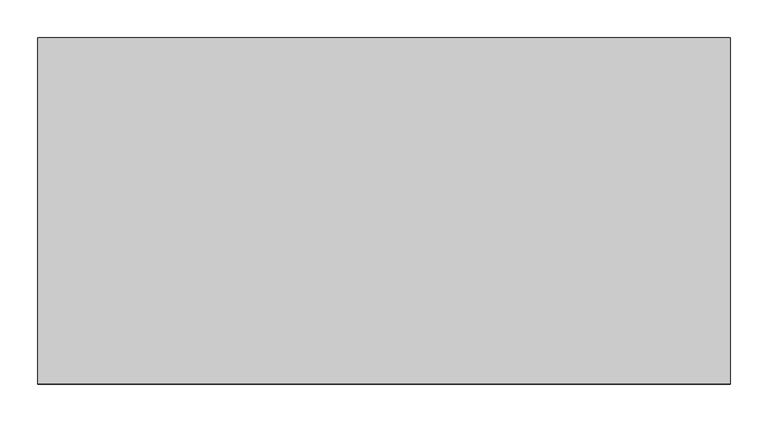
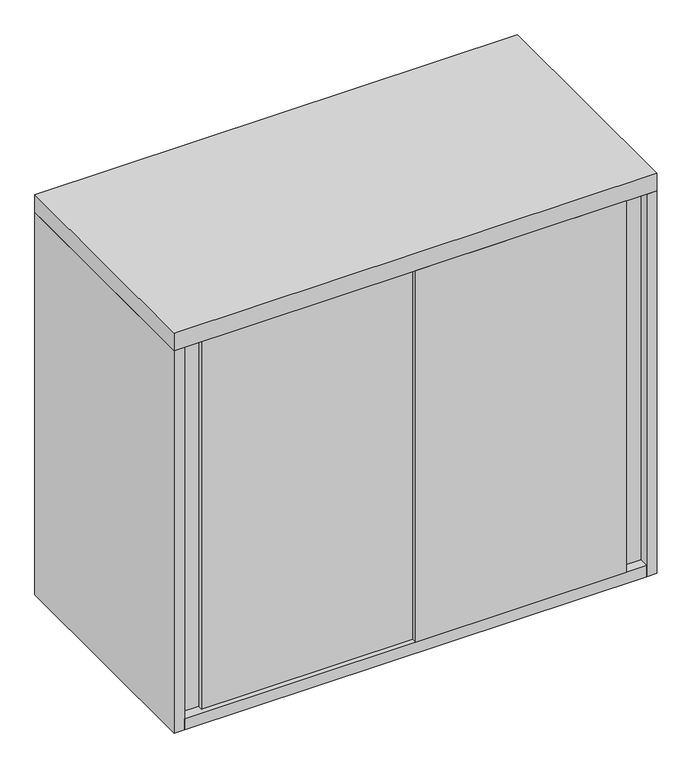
"""IFC4 building model written with IfcOpenShell, lengths in millimetres: furniture geometry, Steelcase - 900 Series - Storage - Overfile Cabinet - Flush Steel : With Sliding Door - 36W x 31 1/2H."""

import ifcopenshell
import ifcopenshell.guid

model = None  # the IFC model being written
_history = None  # IfcOwnerHistory: only IFC2X3 demands one
_inside = {}  # id of a spatial element -> (the spatial element, [elements in it])
_under = {}  # id of a project, library or spatial element -> (it, [spatial elements below it])
_declared = {}  # id of a project -> (the project, [libraries it declares])
_typed = {}  # id of a type object -> (the type object, [elements of that type])
_made_of = {}  # id of a material, layer set ... -> (it, [elements and type objects made of it])


def new_model(schema):
    """Start an empty IFC model of exactly this schema.

    Asked for "IFC4X3", IfcOpenShell would pick the latest addendum, in which some entities
    have other attributes; the version numbers below select the first issue.
    IFC2X3 requires an IfcOwnerHistory on every rooted entity: one is made here for all.
    """
    global model, _history
    if schema == "IFC4X3":
        model = ifcopenshell.file(schema_version=(4, 3, 0, 0))
    else:
        model = ifcopenshell.file(schema=schema)
    _inside.clear()
    _under.clear()
    _declared.clear()
    _typed.clear()
    _made_of.clear()
    _history = None
    if model.schema == "IFC2X3":
        org = make("IfcOrganization", Name="unknown")
        user = make(
            "IfcPersonAndOrganization",
            ThePerson=make("IfcPerson", FamilyName="unknown"),
            TheOrganization=org,
        )
        app = make(
            "IfcApplication",
            ApplicationDeveloper=org,
            Version="unknown",
            ApplicationFullName="unknown",
            ApplicationIdentifier="unknown",
        )
        _history = make(
            "IfcOwnerHistory",
            OwningUser=user,
            OwningApplication=app,
            ChangeAction="ADDED",
            CreationDate=0,
        )
    return model


def make(cls, **values):
    """One entity of the class cls with the attributes given. An attribute that is None is left unset."""
    return model.create_entity(
        cls, **{name: value for name, value in values.items() if value is not None}
    )


def rooted(cls, **values):
    """An entity with a GlobalId (a new one), such as an element, a storey or a relation."""
    return make(cls, GlobalId=ifcopenshell.guid.new(), OwnerHistory=_history, **values)


def si_unit(unit_type, name, prefix=None):
    """IfcSIUnit, for example si_unit("LENGTHUNIT", "METRE", prefix="MILLI")."""
    return make("IfcSIUnit", UnitType=unit_type, Prefix=prefix, Name=name)


def assignment(units):
    """IfcUnitAssignment: the units of a project."""
    return None if units is None else make("IfcUnitAssignment", Units=units)


def point(xyz):
    """IfcCartesianPoint."""
    return None if xyz is None else make("IfcCartesianPoint", Coordinates=xyz)


def direction(xyz):
    """IfcDirection."""
    return None if xyz is None else make("IfcDirection", DirectionRatios=xyz)


def frame(location, z_axis=None, x_axis=None):
    """IfcAxis2Placement3D, a coordinate frame: its origin and axes. An axis left out is left unset."""
    return make(
        "IfcAxis2Placement3D",
        Location=point(location),
        Axis=direction(z_axis),
        RefDirection=direction(x_axis),
    )


def origin():
    """The frame at (0, 0, 0) with its axes left unset."""
    return frame((0.0, 0.0, 0.0))


def place(relative_to, where):
    """IfcLocalPlacement: puts the frame where relative to a parent placement (None: the world)."""
    return make(
        "IfcLocalPlacement", PlacementRelTo=relative_to, RelativePlacement=where
    )


def context(
    kind, dimensions, precision=None, world=None, true_north=None, identifier=None
):
    """IfcGeometricRepresentationContext, for example the 3D "Model" context."""
    return make(
        "IfcGeometricRepresentationContext",
        ContextIdentifier=identifier,
        ContextType=kind,
        CoordinateSpaceDimension=dimensions,
        Precision=precision,
        WorldCoordinateSystem=world,
        TrueNorth=true_north,
    )


def project(units=None, contexts=None):
    """IfcProject with its units and contexts."""
    return rooted(
        "IfcProject",
        Name="project",
        RepresentationContexts=contexts,
        UnitsInContext=assignment(units),
    )


def spatial(cls, under=None, at=None, **own):
    """A site, building, storey or space (cls), placed at a placement, below another one or the project."""
    s = rooted(cls, ObjectPlacement=at, **own)
    if under is not None:
        _under.setdefault(under.id(), (under, []))[1].append(s)
    return s


def polyline(points):
    """IfcPolyline through the points."""
    return make("IfcPolyline", Points=[point(p) for p in points])


def outline(outer, holes=None, kind="AREA"):
    """IfcArbitraryClosedProfileDef: a profile drawn as a closed curve; with holes, ...WithVoids."""
    if holes is None:
        return make("IfcArbitraryClosedProfileDef", ProfileType=kind, OuterCurve=outer)
    return make(
        "IfcArbitraryProfileDefWithVoids",
        ProfileType=kind,
        OuterCurve=outer,
        InnerCurves=holes,
    )


def extrude(swept, where, along, depth):
    """IfcExtrudedAreaSolid: the profile swept, set in the frame where, extruded along a direction by depth."""
    return make(
        "IfcExtrudedAreaSolid",
        SweptArea=swept,
        Position=where,
        ExtrudedDirection=direction(along),
        Depth=depth,
    )


def shape(context_of_items, identifier, shape_type, items):
    """IfcShapeRepresentation: the items that make up one representation, for example the "Body"."""
    return make(
        "IfcShapeRepresentation",
        ContextOfItems=context_of_items,
        RepresentationIdentifier=identifier,
        RepresentationType=shape_type,
        Items=items,
    )


def source(mapping_origin, context_of_items, identifier, shape_type, items):
    """IfcRepresentationMap: a shape defined once, which mapped items show again and again."""
    return make(
        "IfcRepresentationMap",
        MappingOrigin=mapping_origin,
        MappedRepresentation=shape(context_of_items, identifier, shape_type, items),
    )


def transform(
    local_origin,
    x_axis=None,
    y_axis=None,
    z_axis=None,
    scale=None,
    scale2=None,
    scale3=None,
    uniform=True,
):
    """IfcCartesianTransformationOperator3D, or its non-uniform kind. x_axis, y_axis, z_axis: its Axis1, 2, 3."""
    if uniform:
        return make(
            "IfcCartesianTransformationOperator3D",
            Axis1=direction(x_axis),
            Axis2=direction(y_axis),
            LocalOrigin=point(local_origin),
            Scale=scale,
            Axis3=direction(z_axis),
        )
    return make(
        "IfcCartesianTransformationOperator3DnonUniform",
        Axis1=direction(x_axis),
        Axis2=direction(y_axis),
        LocalOrigin=point(local_origin),
        Scale=scale,
        Axis3=direction(z_axis),
        Scale2=scale2,
        Scale3=scale3,
    )


def mapped(mapping_source, mapping_target):
    """IfcMappedItem: shows the shape of a source again, moved by a transform."""
    return make(
        "IfcMappedItem", MappingSource=mapping_source, MappingTarget=mapping_target
    )


def made_of(thing, what):
    """Note that an element or type object is made of a material, layer set ...; save() writes the relation."""
    if what is not None:
        _made_of.setdefault(what.id(), (what, []))[1].append(thing)
    return thing


def element(
    cls,
    number,
    at=None,
    inside=None,
    cuts=None,
    type_object=None,
    material=None,
    context=None,
    identifier="Body",
    shape_type=None,
    held_by="IfcProductDefinitionShape",
    body=None,
    shapes=None,
    **own,
):
    """One element of the class cls, such as IfcWall. Its Tag is "e" and its number.

    at: its placement. inside: the storey or other place that contains it. cuts: it is an
    opening in that element (IfcRelVoidsElement). A single representation is given by context,
    identifier, shape_type and body (its items); several are given by shapes. held_by: the class
    of the entity that holds the representations. save() writes the other relations.
    """
    e = rooted(cls, Tag="e%d" % number, ObjectPlacement=at, **own)
    if body is not None:
        shapes = [shape(context, identifier, shape_type, body)]
    if shapes is not None:
        e.Representation = make(held_by, Representations=shapes)
    if inside is not None:
        _inside.setdefault(inside.id(), (inside, []))[1].append(e)
    if cuts is not None:
        rooted(
            "IfcRelVoidsElement", RelatingBuildingElement=cuts, RelatedOpeningElement=e
        )
    if type_object is not None:
        _typed.setdefault(type_object.id(), (type_object, []))[1].append(e)
    return made_of(e, material)


def aggregate(whole, parts):
    """IfcRelAggregates: a whole, such as a stair, and the parts it consists of."""
    return rooted("IfcRelAggregates", RelatingObject=whole, RelatedObjects=parts)


def save(model, path):
    """Write the relations noted so far, then the file.

    IfcRelAggregates (storeys below a building ...), IfcRelContainedInSpatialStructure (elements
    in a storey), IfcRelDefinesByType, IfcRelAssociatesMaterial and IfcRelDeclares: one each for
    every whole, place, type object, material and project.
    """
    for whole, parts in _under.values():
        aggregate(whole, parts)
    for where, things in _inside.values():
        rooted(
            "IfcRelContainedInSpatialStructure",
            RelatedElements=things,
            RelatingStructure=where,
        )
    for kind, things in _typed.values():
        rooted("IfcRelDefinesByType", RelatedObjects=things, RelatingType=kind)
    for what, things in _made_of.values():
        rooted("IfcRelAssociatesMaterial", RelatedObjects=things, RelatingMaterial=what)
    for by, libraries in _declared.values():
        rooted("IfcRelDeclares", RelatingContext=by, RelatedDefinitions=libraries)
    model.write(path)


def furniture_29896edb(model_context):
    return source(origin(), model_context, "Body", "SweptSolid", [
        extrude(outline(polyline([(457.2, -457.2), (457.2, -431.8), (895.0960184, -431.8), (895.0960184, -438.15), (856.9960184, -438.15), (856.9960184, -457.2), (457.2, -457.2)])), frame((0.0, 0.0, 1268.6029516), z_axis=(0.0, 0.0, 1.0), x_axis=(1.0, 0.0, 0.0)), (0.0, 0.0, 1.0), 742.95),
        extrude(outline(polyline([(19.3039998, -431.8), (457.2, -431.8), (457.2, -447.675), (57.1499992, -447.675), (57.1499992, -438.15), (19.3039998, -438.15), (19.3039998, -431.8)])), frame((0.0, 0.0, 1268.6029516), z_axis=(0.0, 0.0, 1.0), x_axis=(1.0, 0.0, 0.0)), (0.0, 0.0, 1.0), 742.95),
        extrude(outline(polyline([(895.0960184, -6.3500002), (895.0960184, -457.2), (19.3039998, -457.2), (19.3039998, -6.3500002), (895.0960184, -6.3500002)])), frame((0.0, 0.0, 1246.378), z_axis=(0.0, 0.0, 1.0), x_axis=(1.0, 0.0, 0.0)), (0.0, 0.0, 1.0), 22.2249516),
        extrude(outline(polyline([(914.4, 0.0), (914.4, -457.2), (0.0, -457.2), (0.0, 0.0), (914.4, 0.0)])), frame((0.0, 0.0, 2011.5529516), z_axis=(0.0, 0.0, 1.0), x_axis=(1.0, 0.0, 0.0)), (0.0, 0.0, 1.0), 34.9250484),
        extrude(outline(polyline([(895.0960184, -6.3500002), (19.3039998, -6.3500002), (19.3039998, -457.2), (0.0, -457.2), (0.0, 0.0), (914.4, 0.0), (914.4, -457.2), (895.0960184, -457.2), (895.0960184, -6.3500002)])), frame((0.0, 0.0, 1246.378), z_axis=(0.0, 0.0, 1.0), x_axis=(1.0, 0.0, 0.0)), (0.0, 0.0, 1.0), 765.1749516),
    ])


if __name__ == "__main__":
    model = new_model("IFC4")
    model_context = context("Model", 3, world=origin())
    ifc_project = project(units=[si_unit("LENGTHUNIT", "METRE", prefix="MILLI")], contexts=[model_context])
    site = spatial("IfcSite", under=ifc_project)
    building = spatial("IfcBuilding", under=site)
    placement = place(None, origin())
    furniture_shape = furniture_29896edb(model_context)
    element("IfcFurniture", 1, ObjectType="Steelcase - 900 Series - Storage - Overfile Cabinet - Flush Steel : With Sliding Door - 36W x 31 1/2H", at=placement, inside=building, context=model_context, shape_type="MappedRepresentation", body=[
        mapped(furniture_shape, transform((0.0, 0.0, 0.0), x_axis=(1.0, 0.0, 0.0), y_axis=(0.0, 1.0, 0.0), z_axis=(0.0, 0.0, 1.0))),
    ])
    save(model, "model.ifc")
